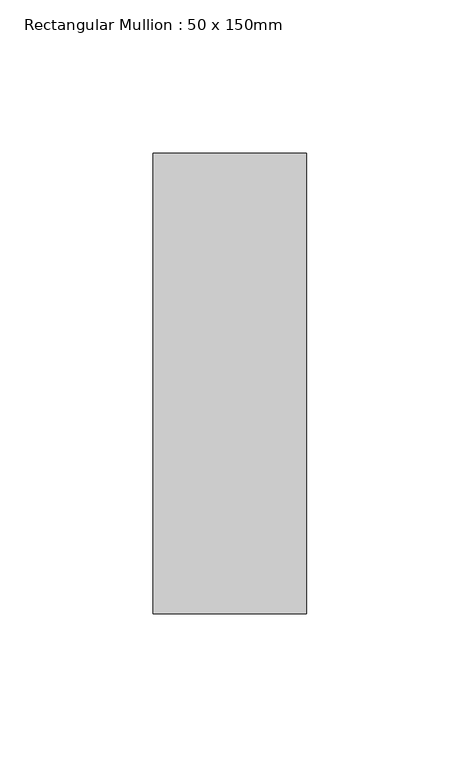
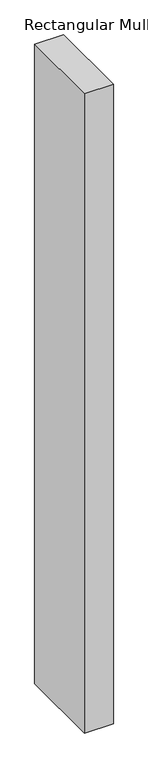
"""IFC4 building model written with IfcOpenShell, lengths in millimetres: member geometry, Rectangular Mullion : 50 x 150mm."""

from ifc_helpers import new_model, si_unit, frame, origin, place, context, project, spatial, polyline, outline, extrude, source, transform, mapped, element, save


def rectangular_mullion_50_x_150mm_568dda71(model_context):
    return source(origin(), model_context, "Body", "SweptSolid", [
        extrude(outline(polyline([(25.0, 75.0), (25.0, -75.0), (-25.0, -75.0), (-25.0, 75.0), (25.0, 75.0)])), frame((0.0, 0.0, -1173.2453384), z_axis=(0.0, 0.0, 1.0), x_axis=(1.0, 0.0, 0.0)), (0.0, 0.0, 1.0), 1173.2453384),
    ])


if __name__ == "__main__":
    model = new_model("IFC4")
    model_context = context("Model", 3, world=origin())
    ifc_project = project(units=[si_unit("LENGTHUNIT", "METRE", prefix="MILLI")], contexts=[model_context])
    site = spatial("IfcSite", under=ifc_project)
    building = spatial("IfcBuilding", under=site)
    placement = place(None, origin())
    rectangular_mullion_50_x_150mm_shape = rectangular_mullion_50_x_150mm_568dda71(model_context)
    element("IfcMember", 1, ObjectType="Rectangular Mullion : 50 x 150mm", at=placement, inside=building, context=model_context, shape_type="MappedRepresentation", body=[
        mapped(rectangular_mullion_50_x_150mm_shape, transform((0.0, 0.0, 0.0), x_axis=(1.0, 0.0, 0.0), y_axis=(0.0, 1.0, 0.0), z_axis=(0.0, 0.0, 1.0))),
    ])
    save(model, "model.ifc")
